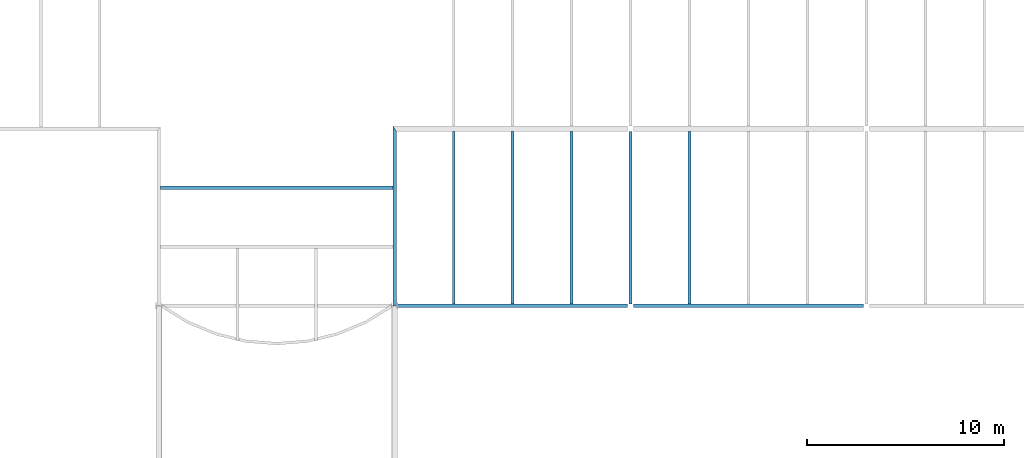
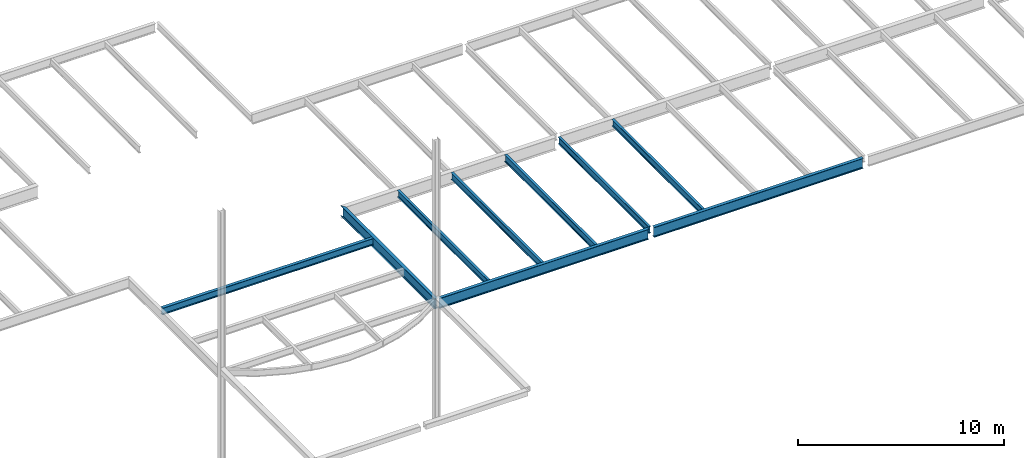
# One storey, part 10 of 21: 9 beams.
"""IFC2X3 building model written with IfcOpenShell, lengths in millimetres."""

from ifc_helpers import new_model, si_unit, origin, place, context, project, spatial, faceted_brep, material, element, save


model = new_model("IFC2X3")

# Units and contexts
context_of_model = context(None, 3, precision=1e-05, world=origin())
ifc_project = project(units=[si_unit("LENGTHUNIT", "METRE", prefix="MILLI")], contexts=[context_of_model])

# Building, storey
building = spatial("IfcBuilding", under=ifc_project, Name="Building", CompositionType="ELEMENT")
storey = spatial("IfcBuildingStorey", under=building, Name="FL6-FRM", CompositionType="ELEMENT")

# Beams
ifc_material_1 = material(Name="A992")
beam_1_placement = place(None, origin())
element("IfcBeam", 1, at=beam_1_placement, inside=storey, material=ifc_material_1, Name="B856", context=context_of_model, shape_type="Brep", body=[
    faceted_brep([(27070.0, 9089.5, 21970.0), (26930.0, 9089.5, 21970.0), (26930.0, 17867.5, 21970.0), (27070.0, 17867.5, 21970.0), (26930.0, 9089.5, 21981.2), (26930.0, 17867.5, 21981.2), (26986.3, 9089.5, 21981.2), (26986.3, 17867.5, 21981.2), (26988.9, 9089.5, 21981.5), (26988.9, 17867.5, 21981.5), (26991.4, 9089.5, 21982.6), (26991.4, 17867.5, 21982.6), (26993.5, 9089.5, 21984.2), (26993.5, 17867.5, 21984.2), (26995.1, 9089.5, 21986.3), (26995.1, 17867.5, 21986.3), (26996.2, 9089.5, 21988.8), (26996.2, 17867.5, 21988.8), (26996.5, 9089.5, 21991.4), (26996.5, 17867.5, 21991.4), (26996.5, 9089.5, 22351.6), (26996.5, 17867.5, 22351.6), (26996.2, 9089.5, 22354.2), (26996.2, 17867.5, 22354.2), (26995.1, 9089.5, 22356.7), (26995.1, 17867.5, 22356.7), (26993.5, 9089.5, 22358.8), (26993.5, 17867.5, 22358.8), (26991.4, 9089.5, 22360.4), (26991.4, 17867.5, 22360.4), (26988.9, 9089.5, 22361.5), (26988.9, 17867.5, 22361.5), (26986.3, 9089.5, 22361.8), (26986.3, 17867.5, 22361.8), (26930.0, 9089.5, 22361.8), (26930.0, 17867.5, 22361.8), (26930.0, 9089.5, 22373.0), (26930.0, 17867.5, 22373.0), (27070.0, 9089.5, 22373.0), (27070.0, 17867.5, 22373.0), (27070.0, 9089.5, 22361.8), (27070.0, 17867.5, 22361.8), (27013.7, 9089.5, 22361.8), (27013.7, 17867.5, 22361.8), (27011.1, 9089.5, 22361.5), (27011.1, 17867.5, 22361.5), (27008.6, 9089.5, 22360.4), (27008.6, 17867.5, 22360.4), (27006.5, 9089.5, 22358.8), (27006.5, 17867.5, 22358.8), (27004.9, 9089.5, 22356.7), (27004.9, 17867.5, 22356.7), (27003.8, 9089.5, 22354.2), (27003.8, 17867.5, 22354.2), (27003.5, 9089.5, 22351.6), (27003.5, 17867.5, 22351.6), (27003.5, 9089.5, 21991.4), (27003.5, 17867.5, 21991.4), (27003.8, 9089.5, 21988.8), (27003.8, 17867.5, 21988.8), (27004.9, 9089.5, 21986.3), (27004.9, 17867.5, 21986.3), (27006.5, 9089.5, 21984.2), (27006.5, 17867.5, 21984.2), (27008.6, 9089.5, 21982.6), (27008.6, 17867.5, 21982.6), (27011.1, 9089.5, 21981.5), (27011.1, 17867.5, 21981.5), (27013.7, 9089.5, 21981.2), (27013.7, 17867.5, 21981.2), (27070.0, 9089.5, 21981.2), (27070.0, 17867.5, 21981.2)], [[[0, 1, 2, 3]], [[1, 4, 5, 2]], [[4, 6, 7, 5]], [[6, 8, 9, 7]], [[8, 10, 11, 9]], [[10, 12, 13, 11]], [[12, 14, 15, 13]], [[14, 16, 17, 15]], [[16, 18, 19, 17]], [[18, 20, 21, 19]], [[20, 22, 23, 21]], [[22, 24, 25, 23]], [[24, 26, 27, 25]], [[26, 28, 29, 27]], [[28, 30, 31, 29]], [[30, 32, 33, 31]], [[32, 34, 35, 33]], [[34, 36, 37, 35]], [[36, 38, 39, 37]], [[38, 40, 41, 39]], [[40, 42, 43, 41]], [[42, 44, 45, 43]], [[44, 46, 47, 45]], [[46, 48, 49, 47]], [[48, 50, 51, 49]], [[50, 52, 53, 51]], [[52, 54, 55, 53]], [[54, 56, 57, 55]], [[56, 58, 59, 57]], [[58, 60, 61, 59]], [[60, 62, 63, 61]], [[62, 64, 65, 63]], [[64, 66, 67, 65]], [[66, 68, 69, 67]], [[68, 70, 71, 69]], [[70, 0, 3, 71]], [[0, 70, 68, 66, 64, 62, 60, 58, 56, 54, 52, 50, 48, 46, 44, 42, 40, 38, 36, 34, 32, 30, 28, 26, 24, 22, 20, 18, 16, 14, 12, 10, 8, 6, 4, 1]], [[3, 2, 5, 7, 9, 11, 13, 15, 17, 19, 21, 23, 25, 27, 29, 31, 33, 35, 37, 39, 41, 43, 45, 47, 49, 51, 53, 55, 57, 59, 61, 63, 65, 67, 69, 71]]]),
])
ifc_material_2 = material(Name="A992")
beam_2_placement = place(None, origin())
element("IfcBeam", 2, at=beam_2_placement, inside=storey, material=ifc_material_2, Name="B861", context=context_of_model, shape_type="Brep", body=[
    faceted_brep([(24070.0, 9089.5, 21970.0), (23930.0, 9089.5, 21970.0), (23930.0, 17867.5, 21970.0), (24070.0, 17867.5, 21970.0), (23930.0, 9089.5, 21981.2), (23930.0, 17867.5, 21981.2), (23986.3, 9089.5, 21981.2), (23986.3, 17867.5, 21981.2), (23988.9, 9089.5, 21981.5), (23988.9, 17867.5, 21981.5), (23991.4, 9089.5, 21982.6), (23991.4, 17867.5, 21982.6), (23993.5, 9089.5, 21984.2), (23993.5, 17867.5, 21984.2), (23995.1, 9089.5, 21986.3), (23995.1, 17867.5, 21986.3), (23996.2, 9089.5, 21988.8), (23996.2, 17867.5, 21988.8), (23996.5, 9089.5, 21991.4), (23996.5, 17867.5, 21991.4), (23996.5, 9089.5, 22351.6), (23996.5, 17867.5, 22351.6), (23996.2, 9089.5, 22354.2), (23996.2, 17867.5, 22354.2), (23995.1, 9089.5, 22356.7), (23995.1, 17867.5, 22356.7), (23993.5, 9089.5, 22358.8), (23993.5, 17867.5, 22358.8), (23991.4, 9089.5, 22360.4), (23991.4, 17867.5, 22360.4), (23988.9, 9089.5, 22361.5), (23988.9, 17867.5, 22361.5), (23986.3, 9089.5, 22361.8), (23986.3, 17867.5, 22361.8), (23930.0, 9089.5, 22361.8), (23930.0, 17867.5, 22361.8), (23930.0, 9089.5, 22373.0), (23930.0, 17867.5, 22373.0), (24070.0, 9089.5, 22373.0), (24070.0, 17867.5, 22373.0), (24070.0, 9089.5, 22361.8), (24070.0, 17867.5, 22361.8), (24013.7, 9089.5, 22361.8), (24013.7, 17867.5, 22361.8), (24011.1, 9089.5, 22361.5), (24011.1, 17867.5, 22361.5), (24008.6, 9089.5, 22360.4), (24008.6, 17867.5, 22360.4), (24006.5, 9089.5, 22358.8), (24006.5, 17867.5, 22358.8), (24004.9, 9089.5, 22356.7), (24004.9, 17867.5, 22356.7), (24003.8, 9089.5, 22354.2), (24003.8, 17867.5, 22354.2), (24003.5, 9089.5, 22351.6), (24003.5, 17867.5, 22351.6), (24003.5, 9089.5, 21991.4), (24003.5, 17867.5, 21991.4), (24003.8, 9089.5, 21988.8), (24003.8, 17867.5, 21988.8), (24004.9, 9089.5, 21986.3), (24004.9, 17867.5, 21986.3), (24006.5, 9089.5, 21984.2), (24006.5, 17867.5, 21984.2), (24008.6, 9089.5, 21982.6), (24008.6, 17867.5, 21982.6), (24011.1, 9089.5, 21981.5), (24011.1, 17867.5, 21981.5), (24013.7, 9089.5, 21981.2), (24013.7, 17867.5, 21981.2), (24070.0, 9089.5, 21981.2), (24070.0, 17867.5, 21981.2)], [[[0, 1, 2, 3]], [[1, 4, 5, 2]], [[4, 6, 7, 5]], [[6, 8, 9, 7]], [[8, 10, 11, 9]], [[10, 12, 13, 11]], [[12, 14, 15, 13]], [[14, 16, 17, 15]], [[16, 18, 19, 17]], [[18, 20, 21, 19]], [[20, 22, 23, 21]], [[22, 24, 25, 23]], [[24, 26, 27, 25]], [[26, 28, 29, 27]], [[28, 30, 31, 29]], [[30, 32, 33, 31]], [[32, 34, 35, 33]], [[34, 36, 37, 35]], [[36, 38, 39, 37]], [[38, 40, 41, 39]], [[40, 42, 43, 41]], [[42, 44, 45, 43]], [[44, 46, 47, 45]], [[46, 48, 49, 47]], [[48, 50, 51, 49]], [[50, 52, 53, 51]], [[52, 54, 55, 53]], [[54, 56, 57, 55]], [[56, 58, 59, 57]], [[58, 60, 61, 59]], [[60, 62, 63, 61]], [[62, 64, 65, 63]], [[64, 66, 67, 65]], [[66, 68, 69, 67]], [[68, 70, 71, 69]], [[70, 0, 3, 71]], [[0, 70, 68, 66, 64, 62, 60, 58, 56, 54, 52, 50, 48, 46, 44, 42, 40, 38, 36, 34, 32, 30, 28, 26, 24, 22, 20, 18, 16, 14, 12, 10, 8, 6, 4, 1]], [[3, 2, 5, 7, 9, 11, 13, 15, 17, 19, 21, 23, 25, 27, 29, 31, 33, 35, 37, 39, 41, 43, 45, 47, 49, 51, 53, 55, 57, 59, 61, 63, 65, 67, 69, 71]]]),
])
ifc_material_3 = material(Name="A992")
beam_3_placement = place(None, origin())
element("IfcBeam", 3, at=beam_3_placement, inside=storey, material=ifc_material_3, Name="Column602", context=context_of_model, shape_type="Brep", body=[
    faceted_brep([(24153.0, 8910.5, 21770.0), (24153.0, 9089.5, 21770.0), (35847.0, 9089.5, 21770.0), (35847.0, 8910.5, 21770.0), (24153.0, 9089.5, 21785.0), (35847.0, 9089.5, 21785.0), (24153.0, 9020.65, 21785.0), (35847.0, 9020.65, 21785.0), (24153.0, 9016.72, 21785.5), (35847.0, 9016.72, 21785.5), (24153.0, 9013.05, 21787.0), (35847.0, 9013.05, 21787.0), (24153.0, 9009.9, 21789.5), (35847.0, 9009.9, 21789.5), (24153.0, 9007.49, 21792.6), (35847.0, 9007.49, 21792.6), (24153.0, 9005.97, 21796.3), (35847.0, 9005.97, 21796.3), (24153.0, 9005.45, 21800.2), (35847.0, 9005.45, 21800.2), (24153.0, 9005.45, 22342.8), (35847.0, 9005.45, 22342.8), (24153.0, 9005.97, 22346.7), (35847.0, 9005.97, 22346.7), (24153.0, 9007.49, 22350.4), (35847.0, 9007.49, 22350.4), (24153.0, 9009.9, 22353.5), (35847.0, 9009.9, 22353.5), (24153.0, 9013.05, 22356.0), (35847.0, 9013.05, 22356.0), (24153.0, 9016.72, 22357.5), (35847.0, 9016.72, 22357.5), (24153.0, 9020.65, 22358.0), (35847.0, 9020.65, 22358.0), (24153.0, 9089.5, 22358.0), (35847.0, 9089.5, 22358.0), (24153.0, 9089.5, 22373.0), (35847.0, 9089.5, 22373.0), (24153.0, 8910.5, 22373.0), (35847.0, 8910.5, 22373.0), (24153.0, 8910.5, 22358.0), (35847.0, 8910.5, 22358.0), (24153.0, 8979.35, 22358.0), (35847.0, 8979.35, 22358.0), (24153.0, 8983.28, 22357.5), (35847.0, 8983.28, 22357.5), (24153.0, 8986.95, 22356.0), (35847.0, 8986.95, 22356.0), (24153.0, 8990.1, 22353.5), (35847.0, 8990.1, 22353.5), (24153.0, 8992.51, 22350.4), (35847.0, 8992.51, 22350.4), (24153.0, 8994.03, 22346.7), (35847.0, 8994.03, 22346.7), (24153.0, 8994.55, 22342.8), (35847.0, 8994.55, 22342.8), (24153.0, 8994.55, 21800.2), (35847.0, 8994.55, 21800.2), (24153.0, 8994.03, 21796.3), (35847.0, 8994.03, 21796.3), (24153.0, 8992.51, 21792.6), (35847.0, 8992.51, 21792.6), (24153.0, 8990.1, 21789.5), (35847.0, 8990.1, 21789.5), (24153.0, 8986.95, 21787.0), (35847.0, 8986.95, 21787.0), (24153.0, 8983.28, 21785.5), (35847.0, 8983.28, 21785.5), (24153.0, 8979.35, 21785.0), (35847.0, 8979.35, 21785.0), (24153.0, 8910.5, 21785.0), (35847.0, 8910.5, 21785.0)], [[[0, 1, 2, 3]], [[1, 4, 5, 2]], [[4, 6, 7, 5]], [[6, 8, 9, 7]], [[8, 10, 11, 9]], [[10, 12, 13, 11]], [[12, 14, 15, 13]], [[14, 16, 17, 15]], [[16, 18, 19, 17]], [[18, 20, 21, 19]], [[20, 22, 23, 21]], [[22, 24, 25, 23]], [[24, 26, 27, 25]], [[26, 28, 29, 27]], [[28, 30, 31, 29]], [[30, 32, 33, 31]], [[32, 34, 35, 33]], [[34, 36, 37, 35]], [[36, 38, 39, 37]], [[38, 40, 41, 39]], [[40, 42, 43, 41]], [[42, 44, 45, 43]], [[44, 46, 47, 45]], [[46, 48, 49, 47]], [[48, 50, 51, 49]], [[50, 52, 53, 51]], [[52, 54, 55, 53]], [[54, 56, 57, 55]], [[56, 58, 59, 57]], [[58, 60, 61, 59]], [[60, 62, 63, 61]], [[62, 64, 65, 63]], [[64, 66, 67, 65]], [[66, 68, 69, 67]], [[68, 70, 71, 69]], [[70, 0, 3, 71]], [[0, 70, 68, 66, 64, 62, 60, 58, 56, 54, 52, 50, 48, 46, 44, 42, 40, 38, 36, 34, 32, 30, 28, 26, 24, 22, 20, 18, 16, 14, 12, 10, 8, 6, 4, 1]], [[3, 2, 5, 7, 9, 11, 13, 15, 17, 19, 21, 23, 25, 27, 29, 31, 33, 35, 37, 39, 41, 43, 45, 47, 49, 51, 53, 55, 57, 59, 61, 63, 65, 67, 69, 71]]]),
])
ifc_material_4 = material(Name="A992")
beam_4_placement = place(None, origin())
element("IfcBeam", 4, at=beam_4_placement, inside=storey, material=ifc_material_4, Name="B866", context=context_of_model, shape_type="Brep", body=[
    faceted_brep([(15070.0, 9089.5, 21970.0), (14930.0, 9089.5, 21970.0), (14930.0, 17867.5, 21970.0), (15070.0, 17867.5, 21970.0), (14930.0, 9089.5, 21981.2), (14930.0, 17867.5, 21981.2), (14986.3, 9089.5, 21981.2), (14986.3, 17867.5, 21981.2), (14988.9, 9089.5, 21981.5), (14988.9, 17867.5, 21981.5), (14991.4, 9089.5, 21982.6), (14991.4, 17867.5, 21982.6), (14993.5, 9089.5, 21984.2), (14993.5, 17867.5, 21984.2), (14995.1, 9089.5, 21986.3), (14995.1, 17867.5, 21986.3), (14996.2, 9089.5, 21988.8), (14996.2, 17867.5, 21988.8), (14996.5, 9089.5, 21991.4), (14996.5, 17867.5, 21991.4), (14996.5, 9089.5, 22351.6), (14996.5, 17867.5, 22351.6), (14996.2, 9089.5, 22354.2), (14996.2, 17867.5, 22354.2), (14995.1, 9089.5, 22356.7), (14995.1, 17867.5, 22356.7), (14993.5, 9089.5, 22358.8), (14993.5, 17867.5, 22358.8), (14991.4, 9089.5, 22360.4), (14991.4, 17867.5, 22360.4), (14988.9, 9089.5, 22361.5), (14988.9, 17867.5, 22361.5), (14986.3, 9089.5, 22361.8), (14986.3, 17867.5, 22361.8), (14930.0, 9089.5, 22361.8), (14930.0, 17867.5, 22361.8), (14930.0, 9089.5, 22373.0), (14930.0, 17867.5, 22373.0), (15070.0, 9089.5, 22373.0), (15070.0, 17867.5, 22373.0), (15070.0, 9089.5, 22361.8), (15070.0, 17867.5, 22361.8), (15013.7, 9089.5, 22361.8), (15013.7, 17867.5, 22361.8), (15011.1, 9089.5, 22361.5), (15011.1, 17867.5, 22361.5), (15008.6, 9089.5, 22360.4), (15008.6, 17867.5, 22360.4), (15006.5, 9089.5, 22358.8), (15006.5, 17867.5, 22358.8), (15004.9, 9089.5, 22356.7), (15004.9, 17867.5, 22356.7), (15003.8, 9089.5, 22354.2), (15003.8, 17867.5, 22354.2), (15003.5, 9089.5, 22351.6), (15003.5, 17867.5, 22351.6), (15003.5, 9089.5, 21991.4), (15003.5, 17867.5, 21991.4), (15003.8, 9089.5, 21988.8), (15003.8, 17867.5, 21988.8), (15004.9, 9089.5, 21986.3), (15004.9, 17867.5, 21986.3), (15006.5, 9089.5, 21984.2), (15006.5, 17867.5, 21984.2), (15008.6, 9089.5, 21982.6), (15008.6, 17867.5, 21982.6), (15011.1, 9089.5, 21981.5), (15011.1, 17867.5, 21981.5), (15013.7, 9089.5, 21981.2), (15013.7, 17867.5, 21981.2), (15070.0, 9089.5, 21981.2), (15070.0, 17867.5, 21981.2)], [[[0, 1, 2, 3]], [[1, 4, 5, 2]], [[4, 6, 7, 5]], [[6, 8, 9, 7]], [[8, 10, 11, 9]], [[10, 12, 13, 11]], [[12, 14, 15, 13]], [[14, 16, 17, 15]], [[16, 18, 19, 17]], [[18, 20, 21, 19]], [[20, 22, 23, 21]], [[22, 24, 25, 23]], [[24, 26, 27, 25]], [[26, 28, 29, 27]], [[28, 30, 31, 29]], [[30, 32, 33, 31]], [[32, 34, 35, 33]], [[34, 36, 37, 35]], [[36, 38, 39, 37]], [[38, 40, 41, 39]], [[40, 42, 43, 41]], [[42, 44, 45, 43]], [[44, 46, 47, 45]], [[46, 48, 49, 47]], [[48, 50, 51, 49]], [[50, 52, 53, 51]], [[52, 54, 55, 53]], [[54, 56, 57, 55]], [[56, 58, 59, 57]], [[58, 60, 61, 59]], [[60, 62, 63, 61]], [[62, 64, 65, 63]], [[64, 66, 67, 65]], [[66, 68, 69, 67]], [[68, 70, 71, 69]], [[70, 0, 3, 71]], [[0, 70, 68, 66, 64, 62, 60, 58, 56, 54, 52, 50, 48, 46, 44, 42, 40, 38, 36, 34, 32, 30, 28, 26, 24, 22, 20, 18, 16, 14, 12, 10, 8, 6, 4, 1]], [[3, 2, 5, 7, 9, 11, 13, 15, 17, 19, 21, 23, 25, 27, 29, 31, 33, 35, 37, 39, 41, 43, 45, 47, 49, 51, 53, 55, 57, 59, 61, 63, 65, 67, 69, 71]]]),
])
ifc_material_5 = material(Name="A992")
beam_5_placement = place(None, origin())
element("IfcBeam", 5, at=beam_5_placement, inside=storey, material=ifc_material_5, Name="B867", context=context_of_model, shape_type="Brep", body=[
    faceted_brep([(18070.0, 9089.5, 21970.0), (17930.0, 9089.5, 21970.0), (17930.0, 17867.5, 21970.0), (18070.0, 17867.5, 21970.0), (17930.0, 9089.5, 21981.2), (17930.0, 17867.5, 21981.2), (17986.3, 9089.5, 21981.2), (17986.3, 17867.5, 21981.2), (17988.9, 9089.5, 21981.5), (17988.9, 17867.5, 21981.5), (17991.4, 9089.5, 21982.6), (17991.4, 17867.5, 21982.6), (17993.5, 9089.5, 21984.2), (17993.5, 17867.5, 21984.2), (17995.1, 9089.5, 21986.3), (17995.1, 17867.5, 21986.3), (17996.2, 9089.5, 21988.8), (17996.2, 17867.5, 21988.8), (17996.5, 9089.5, 21991.4), (17996.5, 17867.5, 21991.4), (17996.5, 9089.5, 22351.6), (17996.5, 17867.5, 22351.6), (17996.2, 9089.5, 22354.2), (17996.2, 17867.5, 22354.2), (17995.1, 9089.5, 22356.7), (17995.1, 17867.5, 22356.7), (17993.5, 9089.5, 22358.8), (17993.5, 17867.5, 22358.8), (17991.4, 9089.5, 22360.4), (17991.4, 17867.5, 22360.4), (17988.9, 9089.5, 22361.5), (17988.9, 17867.5, 22361.5), (17986.3, 9089.5, 22361.8), (17986.3, 17867.5, 22361.8), (17930.0, 9089.5, 22361.8), (17930.0, 17867.5, 22361.8), (17930.0, 9089.5, 22373.0), (17930.0, 17867.5, 22373.0), (18070.0, 9089.5, 22373.0), (18070.0, 17867.5, 22373.0), (18070.0, 9089.5, 22361.8), (18070.0, 17867.5, 22361.8), (18013.7, 9089.5, 22361.8), (18013.7, 17867.5, 22361.8), (18011.1, 9089.5, 22361.5), (18011.1, 17867.5, 22361.5), (18008.6, 9089.5, 22360.4), (18008.6, 17867.5, 22360.4), (18006.5, 9089.5, 22358.8), (18006.5, 17867.5, 22358.8), (18004.9, 9089.5, 22356.7), (18004.9, 17867.5, 22356.7), (18003.8, 9089.5, 22354.2), (18003.8, 17867.5, 22354.2), (18003.5, 9089.5, 22351.6), (18003.5, 17867.5, 22351.6), (18003.5, 9089.5, 21991.4), (18003.5, 17867.5, 21991.4), (18003.8, 9089.5, 21988.8), (18003.8, 17867.5, 21988.8), (18004.9, 9089.5, 21986.3), (18004.9, 17867.5, 21986.3), (18006.5, 9089.5, 21984.2), (18006.5, 17867.5, 21984.2), (18008.6, 9089.5, 21982.6), (18008.6, 17867.5, 21982.6), (18011.1, 9089.5, 21981.5), (18011.1, 17867.5, 21981.5), (18013.7, 9089.5, 21981.2), (18013.7, 17867.5, 21981.2), (18070.0, 9089.5, 21981.2), (18070.0, 17867.5, 21981.2)], [[[0, 1, 2, 3]], [[1, 4, 5, 2]], [[4, 6, 7, 5]], [[6, 8, 9, 7]], [[8, 10, 11, 9]], [[10, 12, 13, 11]], [[12, 14, 15, 13]], [[14, 16, 17, 15]], [[16, 18, 19, 17]], [[18, 20, 21, 19]], [[20, 22, 23, 21]], [[22, 24, 25, 23]], [[24, 26, 27, 25]], [[26, 28, 29, 27]], [[28, 30, 31, 29]], [[30, 32, 33, 31]], [[32, 34, 35, 33]], [[34, 36, 37, 35]], [[36, 38, 39, 37]], [[38, 40, 41, 39]], [[40, 42, 43, 41]], [[42, 44, 45, 43]], [[44, 46, 47, 45]], [[46, 48, 49, 47]], [[48, 50, 51, 49]], [[50, 52, 53, 51]], [[52, 54, 55, 53]], [[54, 56, 57, 55]], [[56, 58, 59, 57]], [[58, 60, 61, 59]], [[60, 62, 63, 61]], [[62, 64, 65, 63]], [[64, 66, 67, 65]], [[66, 68, 69, 67]], [[68, 70, 71, 69]], [[70, 0, 3, 71]], [[0, 70, 68, 66, 64, 62, 60, 58, 56, 54, 52, 50, 48, 46, 44, 42, 40, 38, 36, 34, 32, 30, 28, 26, 24, 22, 20, 18, 16, 14, 12, 10, 8, 6, 4, 1]], [[3, 2, 5, 7, 9, 11, 13, 15, 17, 19, 21, 23, 25, 27, 29, 31, 33, 35, 37, 39, 41, 43, 45, 47, 49, 51, 53, 55, 57, 59, 61, 63, 65, 67, 69, 71]]]),
])
ifc_material_6 = material(Name="A992")
beam_6_placement = place(None, origin())
element("IfcBeam", 6, at=beam_6_placement, inside=storey, material=ifc_material_6, Name="B868", context=context_of_model, shape_type="Brep", body=[
    faceted_brep([(21070.0, 9089.5, 21970.0), (20930.0, 9089.5, 21970.0), (20930.0, 17867.5, 21970.0), (21070.0, 17867.5, 21970.0), (20930.0, 9089.5, 21981.2), (20930.0, 17867.5, 21981.2), (20986.3, 9089.5, 21981.2), (20986.3, 17867.5, 21981.2), (20988.9, 9089.5, 21981.5), (20988.9, 17867.5, 21981.5), (20991.4, 9089.5, 21982.6), (20991.4, 17867.5, 21982.6), (20993.5, 9089.5, 21984.2), (20993.5, 17867.5, 21984.2), (20995.1, 9089.5, 21986.3), (20995.1, 17867.5, 21986.3), (20996.2, 9089.5, 21988.8), (20996.2, 17867.5, 21988.8), (20996.5, 9089.5, 21991.4), (20996.5, 17867.5, 21991.4), (20996.5, 9089.5, 22351.6), (20996.5, 17867.5, 22351.6), (20996.2, 9089.5, 22354.2), (20996.2, 17867.5, 22354.2), (20995.1, 9089.5, 22356.7), (20995.1, 17867.5, 22356.7), (20993.5, 9089.5, 22358.8), (20993.5, 17867.5, 22358.8), (20991.4, 9089.5, 22360.4), (20991.4, 17867.5, 22360.4), (20988.9, 9089.5, 22361.5), (20988.9, 17867.5, 22361.5), (20986.3, 9089.5, 22361.8), (20986.3, 17867.5, 22361.8), (20930.0, 9089.5, 22361.8), (20930.0, 17867.5, 22361.8), (20930.0, 9089.5, 22373.0), (20930.0, 17867.5, 22373.0), (21070.0, 9089.5, 22373.0), (21070.0, 17867.5, 22373.0), (21070.0, 9089.5, 22361.8), (21070.0, 17867.5, 22361.8), (21013.7, 9089.5, 22361.8), (21013.7, 17867.5, 22361.8), (21011.1, 9089.5, 22361.5), (21011.1, 17867.5, 22361.5), (21008.6, 9089.5, 22360.4), (21008.6, 17867.5, 22360.4), (21006.5, 9089.5, 22358.8), (21006.5, 17867.5, 22358.8), (21004.9, 9089.5, 22356.7), (21004.9, 17867.5, 22356.7), (21003.8, 9089.5, 22354.2), (21003.8, 17867.5, 22354.2), (21003.5, 9089.5, 22351.6), (21003.5, 17867.5, 22351.6), (21003.5, 9089.5, 21991.4), (21003.5, 17867.5, 21991.4), (21003.8, 9089.5, 21988.8), (21003.8, 17867.5, 21988.8), (21004.9, 9089.5, 21986.3), (21004.9, 17867.5, 21986.3), (21006.5, 9089.5, 21984.2), (21006.5, 17867.5, 21984.2), (21008.6, 9089.5, 21982.6), (21008.6, 17867.5, 21982.6), (21011.1, 9089.5, 21981.5), (21011.1, 17867.5, 21981.5), (21013.7, 9089.5, 21981.2), (21013.7, 17867.5, 21981.2), (21070.0, 9089.5, 21981.2), (21070.0, 17867.5, 21981.2)], [[[0, 1, 2, 3]], [[1, 4, 5, 2]], [[4, 6, 7, 5]], [[6, 8, 9, 7]], [[8, 10, 11, 9]], [[10, 12, 13, 11]], [[12, 14, 15, 13]], [[14, 16, 17, 15]], [[16, 18, 19, 17]], [[18, 20, 21, 19]], [[20, 22, 23, 21]], [[22, 24, 25, 23]], [[24, 26, 27, 25]], [[26, 28, 29, 27]], [[28, 30, 31, 29]], [[30, 32, 33, 31]], [[32, 34, 35, 33]], [[34, 36, 37, 35]], [[36, 38, 39, 37]], [[38, 40, 41, 39]], [[40, 42, 43, 41]], [[42, 44, 45, 43]], [[44, 46, 47, 45]], [[46, 48, 49, 47]], [[48, 50, 51, 49]], [[50, 52, 53, 51]], [[52, 54, 55, 53]], [[54, 56, 57, 55]], [[56, 58, 59, 57]], [[58, 60, 61, 59]], [[60, 62, 63, 61]], [[62, 64, 65, 63]], [[64, 66, 67, 65]], [[66, 68, 69, 67]], [[68, 70, 71, 69]], [[70, 0, 3, 71]], [[0, 70, 68, 66, 64, 62, 60, 58, 56, 54, 52, 50, 48, 46, 44, 42, 40, 38, 36, 34, 32, 30, 28, 26, 24, 22, 20, 18, 16, 14, 12, 10, 8, 6, 4, 1]], [[3, 2, 5, 7, 9, 11, 13, 15, 17, 19, 21, 23, 25, 27, 29, 31, 33, 35, 37, 39, 41, 43, 45, 47, 49, 51, 53, 55, 57, 59, 61, 63, 65, 67, 69, 71]]]),
])
ifc_material_7 = material(Name="A992")
beam_7_placement = place(None, origin())
element("IfcBeam", 7, at=beam_7_placement, inside=storey, material=ifc_material_7, Name="B869", context=context_of_model, shape_type="Brep", body=[
    faceted_brep([(12089.5, 9004.95, 21770.0), (11910.5, 9004.95, 21770.0), (11910.5, 18132.5, 21770.0), (12089.5, 17867.5, 21770.0), (11910.5, 9004.95, 21785.0), (11910.5, 18132.5, 21785.0), (11979.4, 9004.95, 21785.0), (11979.4, 18030.6, 21785.0), (11981.5, 9004.95, 21785.2), (11981.5, 18027.4, 21785.1), (11983.6, 9004.95, 21785.6), (11983.6, 18024.3, 21785.6), (11985.7, 9004.95, 21786.4), (11985.6, 18021.3, 21786.4), (11987.6, 9004.95, 21787.4), (11987.5, 18018.5, 21787.3), (11989.3, 9004.95, 21788.7), (11989.3, 18015.9, 21788.6), (11990.8, 9004.95, 21790.2), (11990.8, 18013.7, 21790.2), (11992.1, 9004.95, 21792.0), (11992.1, 18011.7, 21791.8), (11993.2, 9004.95, 21793.9), (11993.2, 18010.1, 21793.8), (11993.9, 9004.95, 21795.9), (11993.9, 18009.1, 21795.9), (11994.4, 9004.95, 21798.0), (11994.3, 18008.4, 21798.0), (11994.6, 9004.95, 21800.2), (11994.6, 18008.1, 21800.2), (11994.6, 9004.95, 22342.8), (11994.6, 18008.1, 22342.8), (11994.4, 9004.95, 22345.0), (11994.3, 18008.4, 22345.0), (11993.9, 9004.95, 22347.1), (11993.9, 18009.1, 22347.1), (11993.2, 9004.95, 22349.1), (11993.2, 18010.1, 22349.2), (11992.1, 9004.95, 22351.0), (11992.1, 18011.7, 22351.2), (11990.8, 9004.95, 22352.8), (11990.8, 18013.7, 22352.8), (11989.3, 9004.95, 22354.3), (11989.3, 18015.9, 22354.4), (11987.6, 9004.95, 22355.6), (11987.5, 18018.5, 22355.7), (11985.7, 9004.95, 22356.6), (11985.6, 18021.3, 22356.6), (11983.6, 9004.95, 22357.4), (11983.6, 18024.3, 22357.4), (11981.5, 9004.95, 22357.8), (11981.5, 18027.4, 22357.9), (11979.4, 9004.95, 22358.0), (11979.4, 18030.6, 22358.0), (11910.5, 9004.95, 22358.0), (11910.5, 18132.5, 22358.0), (11910.5, 9004.95, 22373.0), (11910.5, 18132.5, 22373.0), (12089.5, 9004.95, 22373.0), (12089.5, 17867.5, 22373.0), (12089.5, 9004.95, 22358.0), (12089.5, 17867.5, 22358.0), (12020.6, 9004.95, 22358.0), (12020.6, 17969.4, 22358.0), (12018.5, 9004.95, 22357.8), (12018.5, 17972.6, 22357.9), (12016.4, 9004.95, 22357.4), (12016.4, 17975.7, 22357.4), (12014.3, 9004.95, 22356.6), (12014.4, 17978.7, 22356.6), (12012.4, 9004.95, 22355.6), (12012.5, 17981.5, 22355.7), (12010.7, 9004.95, 22354.3), (12010.7, 17984.1, 22354.4), (12009.2, 9004.95, 22352.8), (12009.2, 17986.3, 22352.8), (12007.9, 9004.95, 22351.0), (12007.9, 17988.3, 22351.2), (12006.8, 9004.95, 22349.1), (12006.8, 17989.9, 22349.2), (12006.1, 9004.95, 22347.1), (12006.1, 17990.9, 22347.1), (12005.6, 9004.95, 22345.0), (12005.7, 17991.6, 22345.0), (12005.4, 9004.95, 22342.8), (12005.4, 17991.9, 22342.8), (12005.4, 9004.95, 21800.2), (12005.4, 17991.9, 21800.2), (12005.6, 9004.95, 21798.0), (12005.7, 17991.6, 21798.0), (12006.1, 9004.95, 21795.9), (12006.1, 17990.9, 21795.9), (12006.8, 9004.95, 21793.9), (12006.8, 17989.9, 21793.8), (12007.9, 9004.95, 21792.0), (12007.9, 17988.3, 21791.8), (12009.2, 9004.95, 21790.2), (12009.2, 17986.3, 21790.2), (12010.7, 9004.95, 21788.7), (12010.7, 17984.1, 21788.6), (12012.4, 9004.95, 21787.4), (12012.5, 17981.5, 21787.3), (12014.3, 9004.95, 21786.4), (12014.4, 17978.7, 21786.4), (12016.4, 9004.95, 21785.6), (12016.4, 17975.7, 21785.6), (12018.5, 9004.95, 21785.2), (12018.5, 17972.6, 21785.1), (12020.6, 9004.95, 21785.0), (12020.6, 17969.4, 21785.0), (12089.5, 9004.95, 21785.0), (12089.5, 17867.5, 21785.0)], [[[0, 1, 2, 3]], [[1, 4, 5, 2]], [[4, 6, 7, 5]], [[6, 8, 9, 7]], [[8, 10, 11, 9]], [[10, 12, 13, 11]], [[12, 14, 15, 13]], [[14, 16, 17, 15]], [[16, 18, 19, 17]], [[18, 20, 21, 19]], [[20, 22, 23, 21]], [[22, 24, 25, 23]], [[24, 26, 27, 25]], [[26, 28, 29, 27]], [[28, 30, 31, 29]], [[30, 32, 33, 31]], [[32, 34, 35, 33]], [[34, 36, 37, 35]], [[36, 38, 39, 37]], [[38, 40, 41, 39]], [[40, 42, 43, 41]], [[42, 44, 45, 43]], [[44, 46, 47, 45]], [[46, 48, 49, 47]], [[48, 50, 51, 49]], [[50, 52, 53, 51]], [[52, 54, 55, 53]], [[54, 56, 57, 55]], [[56, 58, 59, 57]], [[58, 60, 61, 59]], [[60, 62, 63, 61]], [[62, 64, 65, 63]], [[64, 66, 67, 65]], [[66, 68, 69, 67]], [[68, 70, 71, 69]], [[70, 72, 73, 71]], [[72, 74, 75, 73]], [[74, 76, 77, 75]], [[76, 78, 79, 77]], [[78, 80, 81, 79]], [[80, 82, 83, 81]], [[82, 84, 85, 83]], [[84, 86, 87, 85]], [[86, 88, 89, 87]], [[88, 90, 91, 89]], [[90, 92, 93, 91]], [[92, 94, 95, 93]], [[94, 96, 97, 95]], [[96, 98, 99, 97]], [[98, 100, 101, 99]], [[100, 102, 103, 101]], [[102, 104, 105, 103]], [[104, 106, 107, 105]], [[106, 108, 109, 107]], [[108, 110, 111, 109]], [[110, 0, 3, 111]], [[0, 110, 108, 106, 104, 102, 100, 98, 96, 94, 92, 90, 88, 86, 84, 82, 80, 78, 76, 74, 72, 70, 68, 66, 64, 62, 60, 58, 56, 54, 52, 50, 48, 46, 44, 42, 40, 38, 36, 34, 32, 30, 28, 26, 24, 22, 20, 18, 16, 14, 12, 10, 8, 6, 4, 1]], [[3, 2, 5, 7, 9, 11, 13, 15, 17, 19, 21, 23, 25, 27, 29, 31, 33, 35, 37, 39, 41, 43, 45, 47, 49, 51, 53, 55, 57, 59, 61, 63, 65, 67, 69, 71, 73, 75, 77, 79, 81, 83, 85, 87, 89, 91, 93, 95, 97, 99, 101, 103, 105, 107, 109, 111]]]),
])
ifc_material_8 = material(Name="A992")
beam_8_placement = place(None, origin())
element("IfcBeam", 8, at=beam_8_placement, inside=storey, material=ifc_material_8, Name="Column605", context=context_of_model, shape_type="Brep", body=[
    faceted_brep([(12154.0, 8910.5, 21770.0), (12154.0, 9089.5, 21770.0), (23847.0, 9089.5, 21770.0), (23847.0, 8910.5, 21770.0), (12154.0, 9089.5, 21785.0), (23847.0, 9089.5, 21785.0), (12154.0, 9020.65, 21785.0), (23847.0, 9020.65, 21785.0), (12154.0, 9016.72, 21785.5), (23847.0, 9016.72, 21785.5), (12154.0, 9013.05, 21787.0), (23847.0, 9013.05, 21787.0), (12154.0, 9009.9, 21789.5), (23847.0, 9009.9, 21789.5), (12154.0, 9007.49, 21792.6), (23847.0, 9007.49, 21792.6), (12154.0, 9005.97, 21796.3), (23847.0, 9005.97, 21796.3), (12154.0, 9005.45, 21800.2), (23847.0, 9005.45, 21800.2), (12154.0, 9005.45, 22342.8), (23847.0, 9005.45, 22342.8), (12154.0, 9005.97, 22346.7), (23847.0, 9005.97, 22346.7), (12154.0, 9007.49, 22350.4), (23847.0, 9007.49, 22350.4), (12154.0, 9009.9, 22353.5), (23847.0, 9009.9, 22353.5), (12154.0, 9013.05, 22356.0), (23847.0, 9013.05, 22356.0), (12154.0, 9016.72, 22357.5), (23847.0, 9016.72, 22357.5), (12154.0, 9020.65, 22358.0), (23847.0, 9020.65, 22358.0), (12154.0, 9089.5, 22358.0), (23847.0, 9089.5, 22358.0), (12154.0, 9089.5, 22373.0), (23847.0, 9089.5, 22373.0), (12154.0, 8910.5, 22373.0), (23847.0, 8910.5, 22373.0), (12154.0, 8910.5, 22358.0), (23847.0, 8910.5, 22358.0), (12154.0, 8979.35, 22358.0), (23847.0, 8979.35, 22358.0), (12154.0, 8983.28, 22357.5), (23847.0, 8983.28, 22357.5), (12154.0, 8986.95, 22356.0), (23847.0, 8986.95, 22356.0), (12154.0, 8990.1, 22353.5), (23847.0, 8990.1, 22353.5), (12154.0, 8992.51, 22350.4), (23847.0, 8992.51, 22350.4), (12154.0, 8994.03, 22346.7), (23847.0, 8994.03, 22346.7), (12154.0, 8994.55, 22342.8), (23847.0, 8994.55, 22342.8), (12154.0, 8994.55, 21800.2), (23847.0, 8994.55, 21800.2), (12154.0, 8994.03, 21796.3), (23847.0, 8994.03, 21796.3), (12154.0, 8992.51, 21792.6), (23847.0, 8992.51, 21792.6), (12154.0, 8990.1, 21789.5), (23847.0, 8990.1, 21789.5), (12154.0, 8986.95, 21787.0), (23847.0, 8986.95, 21787.0), (12154.0, 8983.28, 21785.5), (23847.0, 8983.28, 21785.5), (12154.0, 8979.35, 21785.0), (23847.0, 8979.35, 21785.0), (12154.0, 8910.5, 21785.0), (23847.0, 8910.5, 21785.0)], [[[0, 1, 2, 3]], [[1, 4, 5, 2]], [[4, 6, 7, 5]], [[6, 8, 9, 7]], [[8, 10, 11, 9]], [[10, 12, 13, 11]], [[12, 14, 15, 13]], [[14, 16, 17, 15]], [[16, 18, 19, 17]], [[18, 20, 21, 19]], [[20, 22, 23, 21]], [[22, 24, 25, 23]], [[24, 26, 27, 25]], [[26, 28, 29, 27]], [[28, 30, 31, 29]], [[30, 32, 33, 31]], [[32, 34, 35, 33]], [[34, 36, 37, 35]], [[36, 38, 39, 37]], [[38, 40, 41, 39]], [[40, 42, 43, 41]], [[42, 44, 45, 43]], [[44, 46, 47, 45]], [[46, 48, 49, 47]], [[48, 50, 51, 49]], [[50, 52, 53, 51]], [[52, 54, 55, 53]], [[54, 56, 57, 55]], [[56, 58, 59, 57]], [[58, 60, 61, 59]], [[60, 62, 63, 61]], [[62, 64, 65, 63]], [[64, 66, 67, 65]], [[66, 68, 69, 67]], [[68, 70, 71, 69]], [[70, 0, 3, 71]], [[0, 70, 68, 66, 64, 62, 60, 58, 56, 54, 52, 50, 48, 46, 44, 42, 40, 38, 36, 34, 32, 30, 28, 26, 24, 22, 20, 18, 16, 14, 12, 10, 8, 6, 4, 1]], [[3, 2, 5, 7, 9, 11, 13, 15, 17, 19, 21, 23, 25, 27, 29, 31, 33, 35, 37, 39, 41, 43, 45, 47, 49, 51, 53, 55, 57, 59, 61, 63, 65, 67, 69, 71]]]),
])
ifc_material_9 = material(Name="A992")
beam_9_placement = place(None, origin())
element("IfcBeam", 9, at=beam_9_placement, inside=storey, material=ifc_material_9, Name="B1185", context=context_of_model, shape_type="Brep", body=[
    faceted_brep([(89.5, 14911.0, 21966.0), (89.5, 15089.0, 21966.0), (11910.5, 15089.0, 21966.0), (11910.5, 14911.0, 21966.0), (89.5, 15089.0, 21978.8), (11910.5, 15089.0, 21978.8), (89.5, 15014.0, 21978.8), (11910.5, 15014.0, 21978.8), (89.5, 15011.4, 21979.1), (11910.5, 15011.4, 21979.1), (89.5, 15008.9, 21980.2), (11910.5, 15008.9, 21980.2), (89.5, 15006.8, 21981.8), (11910.5, 15006.8, 21981.8), (89.5, 15005.2, 21983.9), (11910.5, 15005.2, 21983.9), (89.5, 15004.2, 21986.4), (11910.5, 15004.2, 21986.4), (89.5, 15003.8, 21989.0), (11910.5, 15003.8, 21989.0), (89.5, 15003.8, 22350.0), (11910.5, 15003.8, 22350.0), (89.5, 15004.2, 22352.6), (11910.5, 15004.2, 22352.6), (89.5, 15005.2, 22355.1), (11910.5, 15005.2, 22355.1), (89.5, 15006.8, 22357.2), (11910.5, 15006.8, 22357.2), (89.5, 15008.9, 22358.8), (11910.5, 15008.9, 22358.8), (89.5, 15011.4, 22359.9), (11910.5, 15011.4, 22359.9), (89.5, 15014.0, 22360.2), (11910.5, 15014.0, 22360.2), (89.5, 15089.0, 22360.2), (11910.5, 15089.0, 22360.2), (89.5, 15089.0, 22373.0), (11910.5, 15089.0, 22373.0), (89.5, 14911.0, 22373.0), (11910.5, 14911.0, 22373.0), (89.5, 14911.0, 22360.2), (11910.5, 14911.0, 22360.2), (89.5, 14986.0, 22360.2), (11910.5, 14986.0, 22360.2), (89.5, 14988.6, 22359.9), (11910.5, 14988.6, 22359.9), (89.5, 14991.1, 22358.8), (11910.5, 14991.1, 22358.8), (89.5, 14993.2, 22357.2), (11910.5, 14993.2, 22357.2), (89.5, 14994.8, 22355.1), (11910.5, 14994.8, 22355.1), (89.5, 14995.8, 22352.6), (11910.5, 14995.8, 22352.6), (89.5, 14996.2, 22350.0), (11910.5, 14996.2, 22350.0), (89.5, 14996.2, 21989.0), (11910.5, 14996.2, 21989.0), (89.5, 14995.8, 21986.4), (11910.5, 14995.8, 21986.4), (89.5, 14994.8, 21983.9), (11910.5, 14994.8, 21983.9), (89.5, 14993.2, 21981.8), (11910.5, 14993.2, 21981.8), (89.5, 14991.1, 21980.2), (11910.5, 14991.1, 21980.2), (89.5, 14988.6, 21979.1), (11910.5, 14988.6, 21979.1), (89.5, 14986.0, 21978.8), (11910.5, 14986.0, 21978.8), (89.5, 14911.0, 21978.8), (11910.5, 14911.0, 21978.8)], [[[0, 1, 2, 3]], [[1, 4, 5, 2]], [[4, 6, 7, 5]], [[6, 8, 9, 7]], [[8, 10, 11, 9]], [[10, 12, 13, 11]], [[12, 14, 15, 13]], [[14, 16, 17, 15]], [[16, 18, 19, 17]], [[18, 20, 21, 19]], [[20, 22, 23, 21]], [[22, 24, 25, 23]], [[24, 26, 27, 25]], [[26, 28, 29, 27]], [[28, 30, 31, 29]], [[30, 32, 33, 31]], [[32, 34, 35, 33]], [[34, 36, 37, 35]], [[36, 38, 39, 37]], [[38, 40, 41, 39]], [[40, 42, 43, 41]], [[42, 44, 45, 43]], [[44, 46, 47, 45]], [[46, 48, 49, 47]], [[48, 50, 51, 49]], [[50, 52, 53, 51]], [[52, 54, 55, 53]], [[54, 56, 57, 55]], [[56, 58, 59, 57]], [[58, 60, 61, 59]], [[60, 62, 63, 61]], [[62, 64, 65, 63]], [[64, 66, 67, 65]], [[66, 68, 69, 67]], [[68, 70, 71, 69]], [[70, 0, 3, 71]], [[0, 70, 68, 66, 64, 62, 60, 58, 56, 54, 52, 50, 48, 46, 44, 42, 40, 38, 36, 34, 32, 30, 28, 26, 24, 22, 20, 18, 16, 14, 12, 10, 8, 6, 4, 1]], [[3, 2, 5, 7, 9, 11, 13, 15, 17, 19, 21, 23, 25, 27, 29, 31, 33, 35, 37, 39, 41, 43, 45, 47, 49, 51, 53, 55, 57, 59, 61, 63, 65, 67, 69, 71]]]),
])

save(model, "model.ifc")
